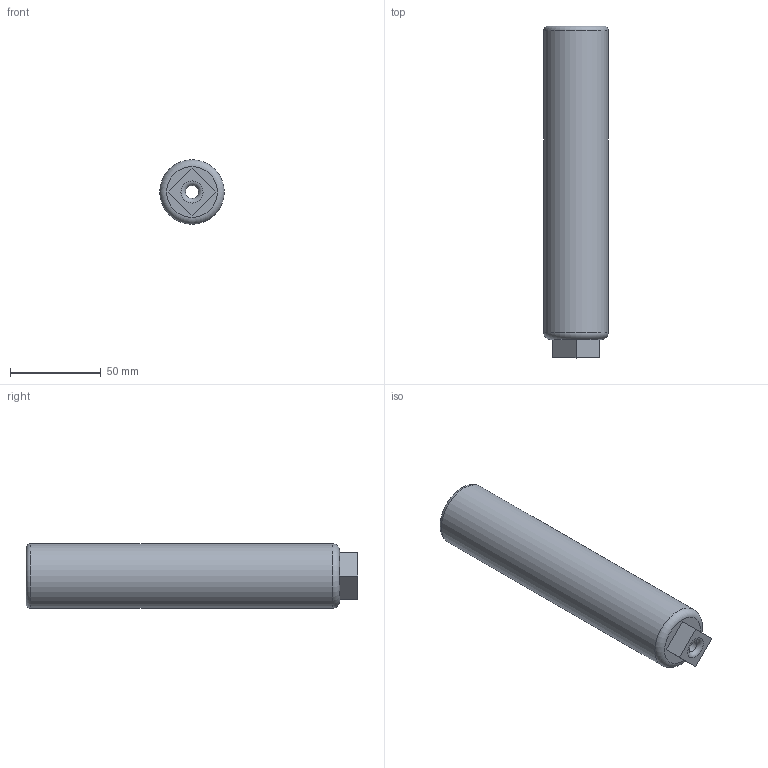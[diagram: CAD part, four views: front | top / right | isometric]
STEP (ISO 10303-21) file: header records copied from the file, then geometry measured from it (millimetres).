
FILE_DESCRIPTION(/* description */ (''),/* implementation_level */ '2;1');
FILE_NAME(/* name */ 'C:/Users/Owner/Desktop/liberator suppressed/STEP Files/22 Caliber versions/22 Cal Liberator Suppressor can 7.2 inch.step',/* time_stamp */ '2020-04-23T22:18:42-04:00',/* author */ (''),/* organization */ (''),/* preprocessor_version */ 'ST-DEVELOPER v18.1',/* originating_system */ 'Autodesk Translation Framework v9.2.0.1227',/* authorisation */ '');
FILE_SCHEMA (('AUTOMOTIVE_DESIGN { 1 0 10303 214 3 1 1 }'));
Length unit declared in the file: inch
Products named in the file (1): 22 cal lib sup 7.2 inch
Bounding box: 35.56 x 182.88 x 35.56 mm (x, y, z)
Volume: 110722.2 mm3; surface area: 35538.7 mm2
Topology: 1 solids, 1 shells, 50 faces, 136 edges, 90 vertices
Faces by surface type: cylinder 34, plane 9, torus 5, bspline 2
Full cylindrical faces by diameter (mm): 7.112 x1, 22.288 x16, 25.4 x13, 35.56 x1
Entity records: 4524 total; most frequent: CARTESIAN_POINT 3310, ORIENTED_EDGE 272, DIRECTION 207, EDGE_CURVE 136, VERTEX_POINT 90, AXIS2_PLACEMENT_3D 81, B_SPLINE_CURVE_WITH_KNOTS 59, EDGE_LOOP 54
